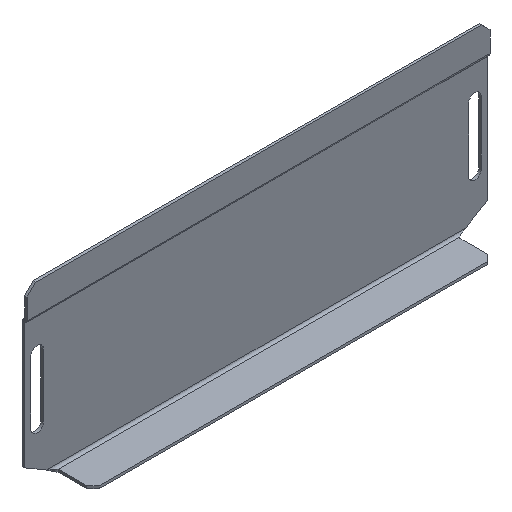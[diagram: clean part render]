
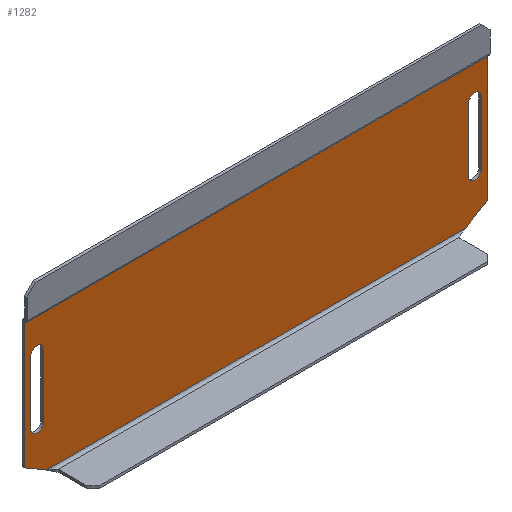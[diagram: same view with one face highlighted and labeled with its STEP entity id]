
A CAD part, isometric view. The second image highlights one B-rep face of the part: STEP entity #1282.
In plain terms, the highlighted planar face has unit normal (0, -1, 0).
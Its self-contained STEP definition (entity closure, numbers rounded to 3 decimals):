
#4 = CIRCLE ( 'NONE', #812, 3. ) ;
#6 = CARTESIAN_POINT ( 'NONE',  ( 107.25, 0., 50.6 ) ) ;
#9 = DIRECTION ( 'NONE',  ( 0., 0., -1. ) ) ;
#30 = LINE ( 'NONE', #1107, #270 ) ;
#31 = DIRECTION ( 'NONE',  ( 0., 0., 1. ) ) ;
#46 = CARTESIAN_POINT ( 'NONE',  ( -101.25, 0., 20.6 ) ) ;
#49 = VERTEX_POINT ( 'NONE', #537 ) ;
#51 = CIRCLE ( 'NONE', #604, 3. ) ;
#65 = VERTEX_POINT ( 'NONE', #1166 ) ;
#73 = LINE ( 'NONE', #542, #1004 ) ;
#77 = VERTEX_POINT ( 'NONE', #152 ) ;
#80 = EDGE_CURVE ( 'NONE', #661, #662, #73, .T. ) ;
#94 = DIRECTION ( 'NONE',  ( 0., 1., 0. ) ) ;
#123 = ORIENTED_EDGE ( 'NONE', *, *, #966, .F. ) ;
#136 = EDGE_CURVE ( 'NONE', #952, #49, #925, .T. ) ;
#147 = CARTESIAN_POINT ( 'NONE',  ( -104.25, 0., 20.6 ) ) ;
#152 = CARTESIAN_POINT ( 'NONE',  ( -99.781, 0., 0. ) ) ;
#153 = ORIENTED_EDGE ( 'NONE', *, *, #554, .F. ) ;
#163 = ORIENTED_EDGE ( 'NONE', *, *, #136, .T. ) ;
#165 = VERTEX_POINT ( 'NONE', #397 ) ;
#172 = LINE ( 'NONE', #309, #1038 ) ;
#185 = CARTESIAN_POINT ( 'NONE',  ( 107.25, 0., 50.6 ) ) ;
#190 = DIRECTION ( 'NONE',  ( 0., 0., 1. ) ) ;
#195 = VERTEX_POINT ( 'NONE', #1271 ) ;
#198 = CARTESIAN_POINT ( 'NONE',  ( 110.25, 0., 6.155 ) ) ;
#221 = CARTESIAN_POINT ( 'NONE',  ( 110.25, 0., 66.168 ) ) ;
#227 = DIRECTION ( 'NONE',  ( 0., 1., 0. ) ) ;
#239 = DIRECTION ( 'NONE',  ( 0., 0., 1. ) ) ;
#240 = VECTOR ( 'NONE', #1009, 1000. ) ;
#270 = VECTOR ( 'NONE', #497, 1000. ) ;
#273 = DIRECTION ( 'NONE',  ( 0., 0., -1. ) ) ;
#276 = VECTOR ( 'NONE', #725, 1000. ) ;
#285 = LINE ( 'NONE', #185, #486 ) ;
#287 = FACE_BOUND ( 'NONE', #430, .T. ) ;
#293 = CARTESIAN_POINT ( 'NONE',  ( 99.781, 0., 0. ) ) ;
#296 = DIRECTION ( 'NONE',  ( 0., 0., 1. ) ) ;
#297 = EDGE_CURVE ( 'NONE', #1172, #662, #172, .T. ) ;
#302 = VECTOR ( 'NONE', #296, 1000. ) ;
#305 = LINE ( 'NONE', #830, #1268 ) ;
#309 = CARTESIAN_POINT ( 'NONE',  ( 110.25, 0., 81.2 ) ) ;
#312 = CARTESIAN_POINT ( 'NONE',  ( 101.25, 0., 50.6 ) ) ;
#324 = DIRECTION ( 'NONE',  ( 0., 0., 1. ) ) ;
#360 = EDGE_CURVE ( 'NONE', #195, #627, #760, .T. ) ;
#372 = AXIS2_PLACEMENT_3D ( 'NONE', #1134, #823, #729 ) ;
#395 = DIRECTION ( 'NONE',  ( 0., 0., 1. ) ) ;
#397 = CARTESIAN_POINT ( 'NONE',  ( 107.25, 0., 20.6 ) ) ;
#418 = EDGE_CURVE ( 'NONE', #778, #165, #285, .T. ) ;
#430 = EDGE_LOOP ( 'NONE', ( #1275, #1203, #123, #881, #697 ) ) ;
#431 = DIRECTION ( 'NONE',  ( 0., 0., 1. ) ) ;
#436 = LINE ( 'NONE', #221, #276 ) ;
#437 = VERTEX_POINT ( 'NONE', #1286 ) ;
#438 = ORIENTED_EDGE ( 'NONE', *, *, #541, .F. ) ;
#444 = DIRECTION ( 'NONE',  ( 0., 0., 1. ) ) ;
#454 = CARTESIAN_POINT ( 'NONE',  ( 101.25, 0., 20.6 ) ) ;
#486 = VECTOR ( 'NONE', #273, 1000. ) ;
#497 = DIRECTION ( 'NONE',  ( -1., 0., 0. ) ) ;
#502 = ORIENTED_EDGE ( 'NONE', *, *, #418, .T. ) ;
#504 = CARTESIAN_POINT ( 'NONE',  ( -110.25, 0., 66.168 ) ) ;
#513 = VECTOR ( 'NONE', #324, 1000. ) ;
#524 = CARTESIAN_POINT ( 'NONE',  ( 110.25, 0., 0. ) ) ;
#530 = DIRECTION ( 'NONE',  ( 0., 0., -1. ) ) ;
#537 = CARTESIAN_POINT ( 'NONE',  ( 104.25, 0., 53.6 ) ) ;
#541 = EDGE_CURVE ( 'NONE', #661, #77, #30, .T. ) ;
#542 = CARTESIAN_POINT ( 'NONE',  ( 99.781, 0., 0. ) ) ;
#544 = LINE ( 'NONE', #312, #513 ) ;
#554 = EDGE_CURVE ( 'NONE', #437, #571, #831, .T. ) ;
#571 = VERTEX_POINT ( 'NONE', #504 ) ;
#599 = FACE_OUTER_BOUND ( 'NONE', #1116, .T. ) ;
#604 = AXIS2_PLACEMENT_3D ( 'NONE', #711, #1028, #31 ) ;
#627 = VERTEX_POINT ( 'NONE', #1276 ) ;
#628 = DIRECTION ( 'NONE',  ( 0., -1., 0. ) ) ;
#636 = CIRCLE ( 'NONE', #1063, 3. ) ;
#647 = DIRECTION ( 'NONE',  ( 0., 1., 0. ) ) ;
#654 = LINE ( 'NONE', #1219, #785 ) ;
#661 = VERTEX_POINT ( 'NONE', #293 ) ;
#662 = VERTEX_POINT ( 'NONE', #198 ) ;
#666 = ORIENTED_EDGE ( 'NONE', *, *, #1088, .T. ) ;
#671 = VERTEX_POINT ( 'NONE', #997 ) ;
#689 = CIRCLE ( 'NONE', #372, 3. ) ;
#697 = ORIENTED_EDGE ( 'NONE', *, *, #854, .F. ) ;
#711 = CARTESIAN_POINT ( 'NONE',  ( -104.25, 0., 50.6 ) ) ;
#725 = DIRECTION ( 'NONE',  ( -1., 0., 0. ) ) ;
#729 = DIRECTION ( 'NONE',  ( 0., 0., 1. ) ) ;
#730 = PLANE ( 'NONE',  #1104 ) ;
#734 = EDGE_CURVE ( 'NONE', #1003, #65, #654, .T. ) ;
#742 = ORIENTED_EDGE ( 'NONE', *, *, #1053, .T. ) ;
#760 = LINE ( 'NONE', #1019, #240 ) ;
#778 = VERTEX_POINT ( 'NONE', #6 ) ;
#785 = VECTOR ( 'NONE', #239, 1000. ) ;
#812 = AXIS2_PLACEMENT_3D ( 'NONE', #147, #1057, #444 ) ;
#820 = AXIS2_PLACEMENT_3D ( 'NONE', #1256, #647, #190 ) ;
#823 = DIRECTION ( 'NONE',  ( 0., -1., 0. ) ) ;
#825 = CARTESIAN_POINT ( 'NONE',  ( -110.25, 0., 81.2 ) ) ;
#829 = VERTEX_POINT ( 'NONE', #454 ) ;
#830 = CARTESIAN_POINT ( 'NONE',  ( -99.781, 0., 0. ) ) ;
#831 = LINE ( 'NONE', #825, #302 ) ;
#833 = AXIS2_PLACEMENT_3D ( 'NONE', #1098, #94, #395 ) ;
#838 = CARTESIAN_POINT ( 'NONE',  ( 104.25, 0., 50.6 ) ) ;
#854 = EDGE_CURVE ( 'NONE', #627, #1003, #4, .T. ) ;
#869 = CIRCLE ( 'NONE', #833, 3. ) ;
#881 = ORIENTED_EDGE ( 'NONE', *, *, #734, .F. ) ;
#925 = CIRCLE ( 'NONE', #820, 3. ) ;
#945 = EDGE_CURVE ( 'NONE', #829, #952, #544, .T. ) ;
#946 = ORIENTED_EDGE ( 'NONE', *, *, #1246, .T. ) ;
#952 = VERTEX_POINT ( 'NONE', #1128 ) ;
#966 = EDGE_CURVE ( 'NONE', #65, #671, #51, .T. ) ;
#978 = ORIENTED_EDGE ( 'NONE', *, *, #297, .F. ) ;
#997 = CARTESIAN_POINT ( 'NONE',  ( -104.25, 0., 53.6 ) ) ;
#1003 = VERTEX_POINT ( 'NONE', #46 ) ;
#1004 = VECTOR ( 'NONE', #1170, 1000. ) ;
#1009 = DIRECTION ( 'NONE',  ( 0., 0., -1. ) ) ;
#1019 = CARTESIAN_POINT ( 'NONE',  ( -107.25, 0., 50.6 ) ) ;
#1028 = DIRECTION ( 'NONE',  ( 0., -1., 0. ) ) ;
#1038 = VECTOR ( 'NONE', #9, 1000. ) ;
#1053 = EDGE_CURVE ( 'NONE', #49, #778, #636, .T. ) ;
#1057 = DIRECTION ( 'NONE',  ( 0., -1., 0. ) ) ;
#1063 = AXIS2_PLACEMENT_3D ( 'NONE', #838, #227, #431 ) ;
#1073 = EDGE_LOOP ( 'NONE', ( #163, #742, #502, #666, #1156 ) ) ;
#1088 = EDGE_CURVE ( 'NONE', #165, #829, #869, .T. ) ;
#1098 = CARTESIAN_POINT ( 'NONE',  ( 104.25, 0., 20.6 ) ) ;
#1104 = AXIS2_PLACEMENT_3D ( 'NONE', #524, #628, #530 ) ;
#1107 = CARTESIAN_POINT ( 'NONE',  ( 99.781, 0., 0. ) ) ;
#1116 = EDGE_LOOP ( 'NONE', ( #438, #1239, #978, #1171, #153, #946 ) ) ;
#1118 = CARTESIAN_POINT ( 'NONE',  ( 110.25, 0., 66.168 ) ) ;
#1128 = CARTESIAN_POINT ( 'NONE',  ( 101.25, 0., 50.6 ) ) ;
#1134 = CARTESIAN_POINT ( 'NONE',  ( -104.25, 0., 50.6 ) ) ;
#1146 = FACE_BOUND ( 'NONE', #1073, .T. ) ;
#1156 = ORIENTED_EDGE ( 'NONE', *, *, #945, .T. ) ;
#1166 = CARTESIAN_POINT ( 'NONE',  ( -101.25, 0., 50.6 ) ) ;
#1170 = DIRECTION ( 'NONE',  ( 0.862, 0., 0.507 ) ) ;
#1171 = ORIENTED_EDGE ( 'NONE', *, *, #1194, .T. ) ;
#1172 = VERTEX_POINT ( 'NONE', #1118 ) ;
#1194 = EDGE_CURVE ( 'NONE', #1172, #571, #436, .T. ) ;
#1203 = ORIENTED_EDGE ( 'NONE', *, *, #1226, .F. ) ;
#1219 = CARTESIAN_POINT ( 'NONE',  ( -101.25, 0., 50.6 ) ) ;
#1226 = EDGE_CURVE ( 'NONE', #671, #195, #689, .T. ) ;
#1239 = ORIENTED_EDGE ( 'NONE', *, *, #80, .T. ) ;
#1246 = EDGE_CURVE ( 'NONE', #437, #77, #305, .T. ) ;
#1256 = CARTESIAN_POINT ( 'NONE',  ( 104.25, 0., 50.6 ) ) ;
#1268 = VECTOR ( 'NONE', #1294, 1000. ) ;
#1271 = CARTESIAN_POINT ( 'NONE',  ( -107.25, 0., 50.6 ) ) ;
#1275 = ORIENTED_EDGE ( 'NONE', *, *, #360, .F. ) ;
#1276 = CARTESIAN_POINT ( 'NONE',  ( -107.25, 0., 20.6 ) ) ;
#1282 = ADVANCED_FACE ( 'NONE', ( #1146, #287, #599 ), #730, .T. ) ;
#1286 = CARTESIAN_POINT ( 'NONE',  ( -110.25, 0., 6.155 ) ) ;
#1294 = DIRECTION ( 'NONE',  ( 0.862, 0., -0.507 ) ) ;
